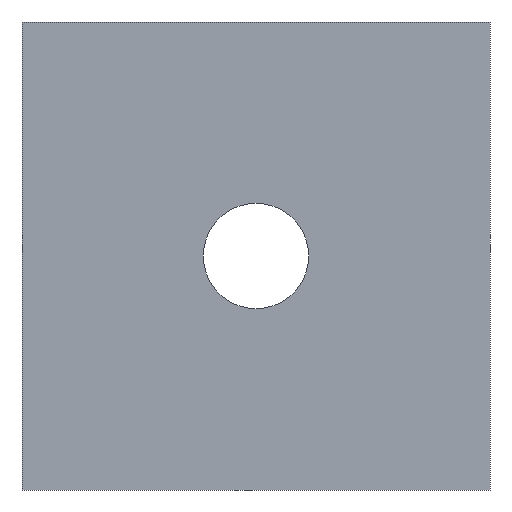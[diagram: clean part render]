
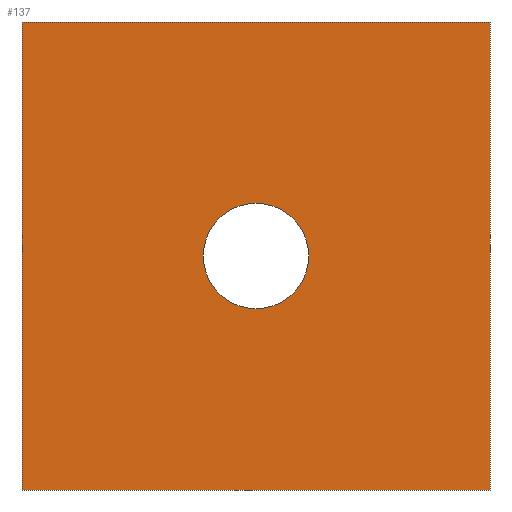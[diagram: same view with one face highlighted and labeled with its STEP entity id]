
A CAD part, front view. The second image highlights one B-rep face of the part: STEP entity #137.
In plain terms, the highlighted planar face has unit normal (0, -1, 0).
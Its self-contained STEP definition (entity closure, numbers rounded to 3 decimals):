
#21 = EDGE_CURVE('',#22,#24,#26,.T.);
#22 = VERTEX_POINT('',#23);
#23 = CARTESIAN_POINT('',(65.,-47.5,52.));
#24 = VERTEX_POINT('',#25);
#25 = CARTESIAN_POINT('',(65.,-47.5,72.));
#26 = SURFACE_CURVE('',#27,(#31,#43),.PCURVE_S1.);
#27 = LINE('',#28,#29);
#28 = CARTESIAN_POINT('',(65.,-47.5,52.));
#29 = VECTOR('',#30,1.);
#30 = DIRECTION('',(0.,0.,1.));
#31 = PCURVE('',#32,#37);
#32 = PLANE('',#33);
#33 = AXIS2_PLACEMENT_3D('',#34,#35,#36);
#34 = CARTESIAN_POINT('',(65.,-47.5,52.));
#35 = DIRECTION('',(1.,0.,0.));
#36 = DIRECTION('',(0.,0.,1.));
#37 = DEFINITIONAL_REPRESENTATION('',(#38),#42);
#38 = LINE('',#39,#40);
#39 = CARTESIAN_POINT('',(0.,0.));
#40 = VECTOR('',#41,1.);
#41 = DIRECTION('',(1.,0.));
#42 = ( GEOMETRIC_REPRESENTATION_CONTEXT(2) 
PARAMETRIC_REPRESENTATION_CONTEXT() REPRESENTATION_CONTEXT('2D SPACE',''
  ) );
#43 = PCURVE('',#44,#49);
#44 = PLANE('',#45);
#45 = AXIS2_PLACEMENT_3D('',#46,#47,#48);
#46 = CARTESIAN_POINT('',(65.,-47.5,52.));
#47 = DIRECTION('',(0.,1.,0.));
#48 = DIRECTION('',(0.,0.,1.));
#49 = DEFINITIONAL_REPRESENTATION('',(#50),#54);
#50 = LINE('',#51,#52);
#51 = CARTESIAN_POINT('',(0.,0.));
#52 = VECTOR('',#53,1.);
#53 = DIRECTION('',(1.,0.));
#54 = ( GEOMETRIC_REPRESENTATION_CONTEXT(2) 
PARAMETRIC_REPRESENTATION_CONTEXT() REPRESENTATION_CONTEXT('2D SPACE',''
  ) );
#72 = PLANE('',#73);
#73 = AXIS2_PLACEMENT_3D('',#74,#75,#76);
#74 = CARTESIAN_POINT('',(65.,-47.5,52.));
#75 = DIRECTION('',(0.,0.,1.));
#76 = DIRECTION('',(1.,0.,0.));
#126 = PLANE('',#127);
#127 = AXIS2_PLACEMENT_3D('',#128,#129,#130);
#128 = CARTESIAN_POINT('',(65.,-47.5,72.));
#129 = DIRECTION('',(0.,0.,1.));
#130 = DIRECTION('',(1.,0.,0.));
#137 = ADVANCED_FACE('',(#138,#213),#44,.F.);
#138 = FACE_BOUND('',#139,.F.);
#139 = EDGE_LOOP('',(#140,#163,#164,#187));
#140 = ORIENTED_EDGE('',*,*,#141,.F.);
#141 = EDGE_CURVE('',#22,#142,#144,.T.);
#142 = VERTEX_POINT('',#143);
#143 = CARTESIAN_POINT('',(85.,-47.5,52.));
#144 = SURFACE_CURVE('',#145,(#149,#156),.PCURVE_S1.);
#145 = LINE('',#146,#147);
#146 = CARTESIAN_POINT('',(65.,-47.5,52.));
#147 = VECTOR('',#148,1.);
#148 = DIRECTION('',(1.,0.,0.));
#149 = PCURVE('',#44,#150);
#150 = DEFINITIONAL_REPRESENTATION('',(#151),#155);
#151 = LINE('',#152,#153);
#152 = CARTESIAN_POINT('',(0.,0.));
#153 = VECTOR('',#154,1.);
#154 = DIRECTION('',(0.,1.));
#155 = ( GEOMETRIC_REPRESENTATION_CONTEXT(2) 
PARAMETRIC_REPRESENTATION_CONTEXT() REPRESENTATION_CONTEXT('2D SPACE',''
  ) );
#156 = PCURVE('',#72,#157);
#157 = DEFINITIONAL_REPRESENTATION('',(#158),#162);
#158 = LINE('',#159,#160);
#159 = CARTESIAN_POINT('',(0.,0.));
#160 = VECTOR('',#161,1.);
#161 = DIRECTION('',(1.,0.));
#162 = ( GEOMETRIC_REPRESENTATION_CONTEXT(2) 
PARAMETRIC_REPRESENTATION_CONTEXT() REPRESENTATION_CONTEXT('2D SPACE',''
  ) );
#163 = ORIENTED_EDGE('',*,*,#21,.T.);
#164 = ORIENTED_EDGE('',*,*,#165,.T.);
#165 = EDGE_CURVE('',#24,#166,#168,.T.);
#166 = VERTEX_POINT('',#167);
#167 = CARTESIAN_POINT('',(85.,-47.5,72.));
#168 = SURFACE_CURVE('',#169,(#173,#180),.PCURVE_S1.);
#169 = LINE('',#170,#171);
#170 = CARTESIAN_POINT('',(65.,-47.5,72.));
#171 = VECTOR('',#172,1.);
#172 = DIRECTION('',(1.,0.,0.));
#173 = PCURVE('',#44,#174);
#174 = DEFINITIONAL_REPRESENTATION('',(#175),#179);
#175 = LINE('',#176,#177);
#176 = CARTESIAN_POINT('',(20.,0.));
#177 = VECTOR('',#178,1.);
#178 = DIRECTION('',(0.,1.));
#179 = ( GEOMETRIC_REPRESENTATION_CONTEXT(2) 
PARAMETRIC_REPRESENTATION_CONTEXT() REPRESENTATION_CONTEXT('2D SPACE',''
  ) );
#180 = PCURVE('',#126,#181);
#181 = DEFINITIONAL_REPRESENTATION('',(#182),#186);
#182 = LINE('',#183,#184);
#183 = CARTESIAN_POINT('',(0.,0.));
#184 = VECTOR('',#185,1.);
#185 = DIRECTION('',(1.,0.));
#186 = ( GEOMETRIC_REPRESENTATION_CONTEXT(2) 
PARAMETRIC_REPRESENTATION_CONTEXT() REPRESENTATION_CONTEXT('2D SPACE',''
  ) );
#187 = ORIENTED_EDGE('',*,*,#188,.F.);
#188 = EDGE_CURVE('',#142,#166,#189,.T.);
#189 = SURFACE_CURVE('',#190,(#194,#201),.PCURVE_S1.);
#190 = LINE('',#191,#192);
#191 = CARTESIAN_POINT('',(85.,-47.5,52.));
#192 = VECTOR('',#193,1.);
#193 = DIRECTION('',(0.,0.,1.));
#194 = PCURVE('',#44,#195);
#195 = DEFINITIONAL_REPRESENTATION('',(#196),#200);
#196 = LINE('',#197,#198);
#197 = CARTESIAN_POINT('',(0.,20.));
#198 = VECTOR('',#199,1.);
#199 = DIRECTION('',(1.,0.));
#200 = ( GEOMETRIC_REPRESENTATION_CONTEXT(2) 
PARAMETRIC_REPRESENTATION_CONTEXT() REPRESENTATION_CONTEXT('2D SPACE',''
  ) );
#201 = PCURVE('',#202,#207);
#202 = PLANE('',#203);
#203 = AXIS2_PLACEMENT_3D('',#204,#205,#206);
#204 = CARTESIAN_POINT('',(85.,-47.5,52.));
#205 = DIRECTION('',(1.,0.,0.));
#206 = DIRECTION('',(0.,0.,1.));
#207 = DEFINITIONAL_REPRESENTATION('',(#208),#212);
#208 = LINE('',#209,#210);
#209 = CARTESIAN_POINT('',(0.,0.));
#210 = VECTOR('',#211,1.);
#211 = DIRECTION('',(1.,0.));
#212 = ( GEOMETRIC_REPRESENTATION_CONTEXT(2) 
PARAMETRIC_REPRESENTATION_CONTEXT() REPRESENTATION_CONTEXT('2D SPACE',''
  ) );
#213 = FACE_BOUND('',#214,.F.);
#214 = EDGE_LOOP('',(#215));
#215 = ORIENTED_EDGE('',*,*,#216,.F.);
#216 = EDGE_CURVE('',#217,#217,#219,.T.);
#217 = VERTEX_POINT('',#218);
#218 = CARTESIAN_POINT('',(75.,-47.5,64.25));
#219 = SURFACE_CURVE('',#220,(#225,#232),.PCURVE_S1.);
#220 = CIRCLE('',#221,2.25);
#221 = AXIS2_PLACEMENT_3D('',#222,#223,#224);
#222 = CARTESIAN_POINT('',(75.,-47.5,62.));
#223 = DIRECTION('',(0.,1.,0.));
#224 = DIRECTION('',(0.,-0.,1.));
#225 = PCURVE('',#44,#226);
#226 = DEFINITIONAL_REPRESENTATION('',(#227),#231);
#227 = CIRCLE('',#228,2.25);
#228 = AXIS2_PLACEMENT_2D('',#229,#230);
#229 = CARTESIAN_POINT('',(10.,10.));
#230 = DIRECTION('',(1.,0.));
#231 = ( GEOMETRIC_REPRESENTATION_CONTEXT(2) 
PARAMETRIC_REPRESENTATION_CONTEXT() REPRESENTATION_CONTEXT('2D SPACE',''
  ) );
#232 = PCURVE('',#233,#238);
#233 = CYLINDRICAL_SURFACE('',#234,2.25);
#234 = AXIS2_PLACEMENT_3D('',#235,#236,#237);
#235 = CARTESIAN_POINT('',(75.,-47.5,62.));
#236 = DIRECTION('',(0.,1.,0.));
#237 = DIRECTION('',(0.,-0.,1.));
#238 = DEFINITIONAL_REPRESENTATION('',(#239),#243);
#239 = LINE('',#240,#241);
#240 = CARTESIAN_POINT('',(0.,0.));
#241 = VECTOR('',#242,1.);
#242 = DIRECTION('',(1.,0.));
#243 = ( GEOMETRIC_REPRESENTATION_CONTEXT(2) 
PARAMETRIC_REPRESENTATION_CONTEXT() REPRESENTATION_CONTEXT('2D SPACE',''
  ) );
